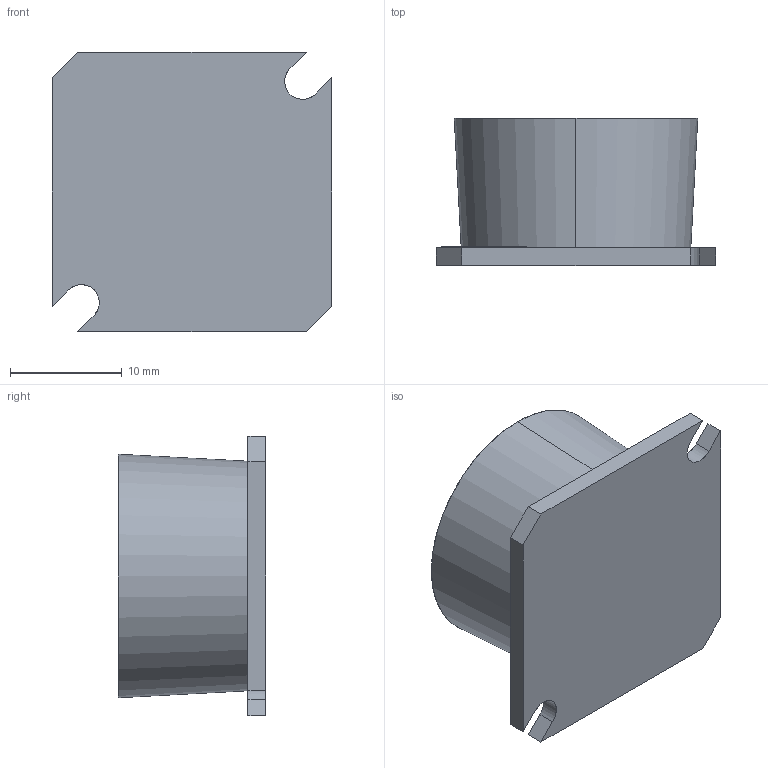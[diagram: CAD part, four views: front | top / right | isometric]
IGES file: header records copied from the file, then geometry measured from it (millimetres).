
Start section: SolidWorks IGES file using analytic representation for surfaces
Global section: file name: E:\Fast Tracks\Non-Production\Quadica\SP Assemblies\SP-12\SP-12.IGS; native system: SolidWorks 2014; preprocessor: SolidWorks 2014; author: MainServer; date: 140730.135108; units: inch
Bounding box: 25 x 13.2 x 25 mm (x, y, z)
Surface area: 4413.1 mm2 (no closed solid volume)
Topology: 0 solids, 0 shells, 396 faces, 3424 edges, 3418 vertices
Faces by surface type: bspline 345, revolution 51
